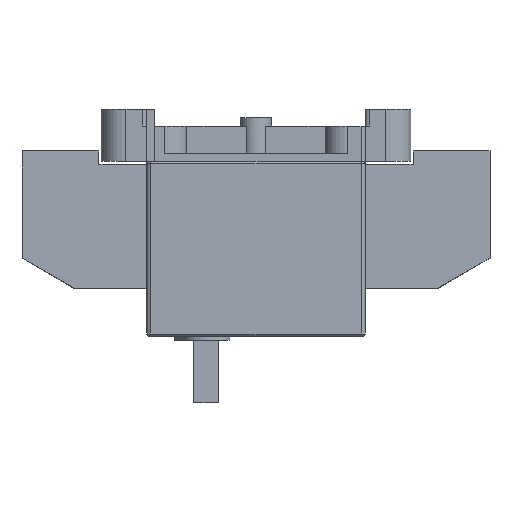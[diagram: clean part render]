
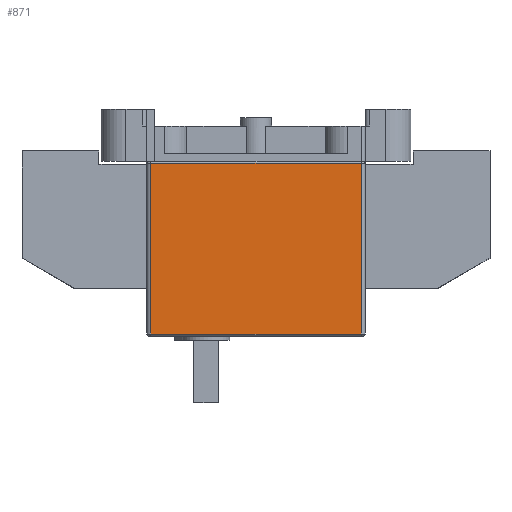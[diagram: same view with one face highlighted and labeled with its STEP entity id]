
A CAD part, left-side view. The second image highlights one B-rep face of the part: STEP entity #871.
In plain terms, the highlighted planar face has unit normal (-1, 0, 0).
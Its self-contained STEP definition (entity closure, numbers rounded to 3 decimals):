
#314=PLANE('',#8937);
#871=ADVANCED_FACE('',(#1377),#314,.F.);
#1377=FACE_OUTER_BOUND('',#1841,.T.);
#1841=EDGE_LOOP('',(#5593,#5594,#5595,#5596));
#2758=LINE('',#13360,#3690);
#2765=LINE('',#13440,#3697);
#2772=LINE('',#13456,#3704);
#2773=LINE('',#13458,#3705);
#3690=VECTOR('',#10878,1.);
#3697=VECTOR('',#10931,1.);
#3704=VECTOR('',#10954,1.);
#3705=VECTOR('',#10957,1.);
#5593=ORIENTED_EDGE('',*,*,#7968,.T.);
#5594=ORIENTED_EDGE('',*,*,#7934,.T.);
#5595=ORIENTED_EDGE('',*,*,#7969,.F.);
#5596=ORIENTED_EDGE('',*,*,#7958,.T.);
#6845=VERTEX_POINT('',#13348);
#6849=VERTEX_POINT('',#13357);
#6864=VERTEX_POINT('',#13412);
#6868=VERTEX_POINT('',#13439);
#7934=EDGE_CURVE('',#6849,#6845,#2758,.T.);
#7958=EDGE_CURVE('',#6864,#6868,#2765,.T.);
#7968=EDGE_CURVE('',#6868,#6849,#2772,.T.);
#7969=EDGE_CURVE('',#6864,#6845,#2773,.T.);
#8937=AXIS2_PLACEMENT_3D('',#13459,#10958,#10959);
#10878=DIRECTION('',(0.,1.,0.));
#10931=DIRECTION('',(0.,-1.,0.));
#10954=DIRECTION('',(0.,0.,1.));
#10957=DIRECTION('',(0.,0.,1.));
#10958=DIRECTION('',(1.,0.,0.));
#10959=DIRECTION('',(0.,1.,0.));
#13348=CARTESIAN_POINT('',(-197.5,50.5,-1.));
#13357=CARTESIAN_POINT('',(-197.5,-50.5,-1.));
#13360=CARTESIAN_POINT('',(-197.5,-50.5,-1.));
#13412=CARTESIAN_POINT('',(-197.5,50.5,-83.));
#13439=CARTESIAN_POINT('',(-197.5,-50.5,-83.));
#13440=CARTESIAN_POINT('',(-197.5,-50.5,-83.));
#13456=CARTESIAN_POINT('',(-197.5,-50.5,-84.));
#13458=CARTESIAN_POINT('',(-197.5,50.5,-84.));
#13459=CARTESIAN_POINT('',(-197.5,-50.5,-84.));
